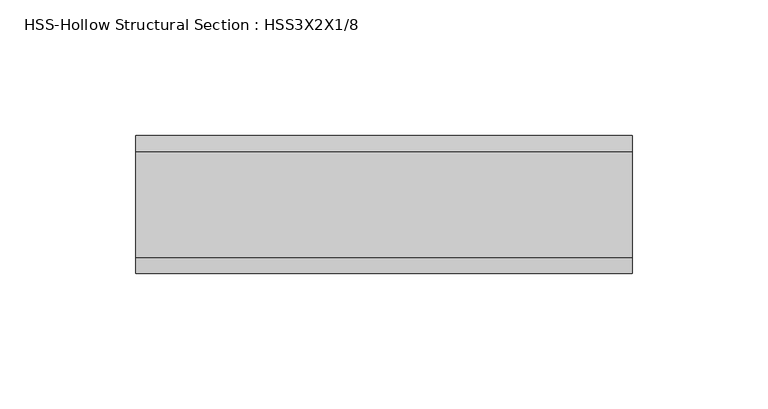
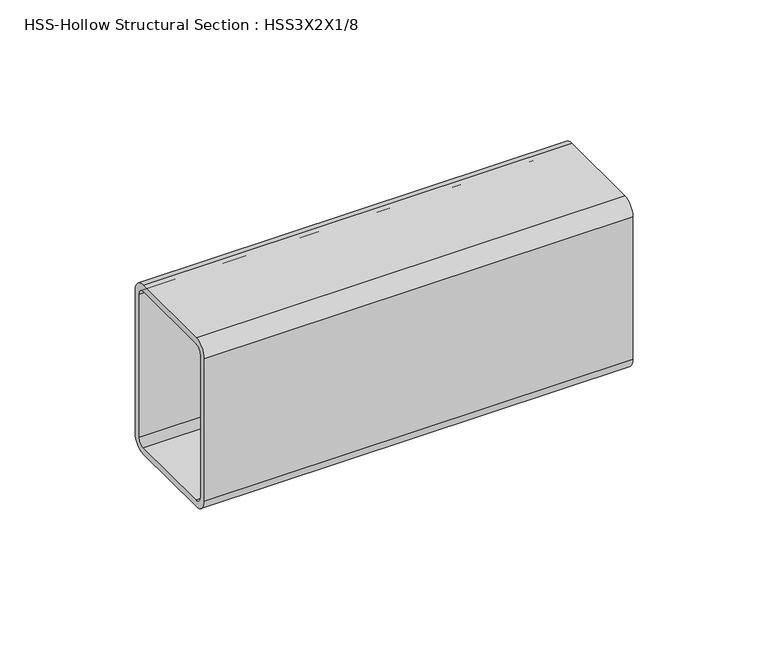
"""IFC4 building model written with IfcOpenShell, lengths in millimetres: beam geometry, HSS-Hollow Structural Section : HSS3X2X1/8."""

from ifc_helpers import new_model, si_unit, point, frame, frame_2d, origin, place, context, project, spatial, polyline, circle_curve, trimmed, segment, composite_curve, outline, extrude, source, transform, mapped, element, save


def hss_hollow_structural_section_hss3x2x1_8_d322ad7d(model_context):
    return source(origin(), model_context, "Body", "SweptSolid", [
        extrude(outline(composite_curve([segment(polyline([(25.4, 32.2072), (25.4, -32.2072)]), True, "CONTINUOUS"), segment(trimmed(circle_curve(frame_2d((19.5072, -32.2072)), 5.8928), [point((25.4, -32.2072))], [point((19.5072, -38.1))], False, "CARTESIAN"), True, "CONTINUOUS"), segment(polyline([(19.5072, -38.1), (-19.5072, -38.1)]), True, "CONTINUOUS"), segment(trimmed(circle_curve(frame_2d((-19.5072, -32.2072)), 5.8928), [point((-19.5072, -38.1))], [point((-25.4, -32.2072))], False, "CARTESIAN"), True, "CONTINUOUS"), segment(polyline([(-25.4, -32.2072), (-25.4, 32.2072)]), True, "CONTINUOUS"), segment(trimmed(circle_curve(frame_2d((-19.5072, 32.2072)), 5.8928), [point((-25.4, 32.2072))], [point((-19.5072, 38.1))], False, "CARTESIAN"), True, "CONTINUOUS"), segment(polyline([(-19.5072, 38.1), (19.5072, 38.1)]), True, "CONTINUOUS"), segment(trimmed(circle_curve(frame_2d((19.5072, 32.2072)), 5.8928), [point((19.5072, 38.1))], [point((25.4, 32.2072))], False, "CARTESIAN"), True, "CONTINUOUS")], self_intersect=False), holes=[composite_curve([segment(trimmed(circle_curve(frame_2d((-19.5072, 32.2072)), 2.9464), [point((-19.5072, 35.1536))], [point((-22.4536, 32.2072))], True, "CARTESIAN"), True, "CONTINUOUS"), segment(polyline([(-22.4536, 32.2072), (-22.4536, -32.2072)]), True, "CONTINUOUS"), segment(trimmed(circle_curve(frame_2d((-19.5072, -32.2072)), 2.9464), [point((-22.4536, -32.2072))], [point((-19.5072, -35.1536))], True, "CARTESIAN"), True, "CONTINUOUS"), segment(polyline([(-19.5072, -35.1536), (19.5072, -35.1536)]), True, "CONTINUOUS"), segment(trimmed(circle_curve(frame_2d((19.5072, -32.2072)), 2.9464), [point((19.5072, -35.1536))], [point((22.4536, -32.2072))], True, "CARTESIAN"), True, "CONTINUOUS"), segment(polyline([(22.4536, -32.2072), (22.4536, 32.2072)]), True, "CONTINUOUS"), segment(trimmed(circle_curve(frame_2d((19.5072, 32.2072)), 2.9464), [point((22.4536, 32.2072))], [point((19.5072, 35.1536))], True, "CARTESIAN"), True, "CONTINUOUS"), segment(polyline([(19.5072, 35.1536), (-19.5072, 35.1536)]), True, "CONTINUOUS")], self_intersect=False)]), frame((-55.9871678, 0.0, 0.0), z_axis=(1.0, 0.0, 0.0), x_axis=(0.0, 1.0, 0.0)), (0.0, 0.0, 1.0), 182.9871678),
    ])


if __name__ == "__main__":
    model = new_model("IFC4")
    model_context = context("Model", 3, world=origin())
    ifc_project = project(units=[si_unit("LENGTHUNIT", "METRE", prefix="MILLI")], contexts=[model_context])
    site = spatial("IfcSite", under=ifc_project)
    building = spatial("IfcBuilding", under=site)
    placement = place(None, origin())
    hss_hollow_structural_section_hss3x2x1_8_shape = hss_hollow_structural_section_hss3x2x1_8_d322ad7d(model_context)
    element("IfcBeam", 1, ObjectType="HSS-Hollow Structural Section : HSS3X2X1/8", at=placement, inside=building, context=model_context, shape_type="MappedRepresentation", body=[
        mapped(hss_hollow_structural_section_hss3x2x1_8_shape, transform((0.0, 0.0, 0.0), x_axis=(1.0, 0.0, 0.0), y_axis=(0.0, 1.0, 0.0), z_axis=(0.0, 0.0, 1.0))),
    ])
    save(model, "model.ifc")
